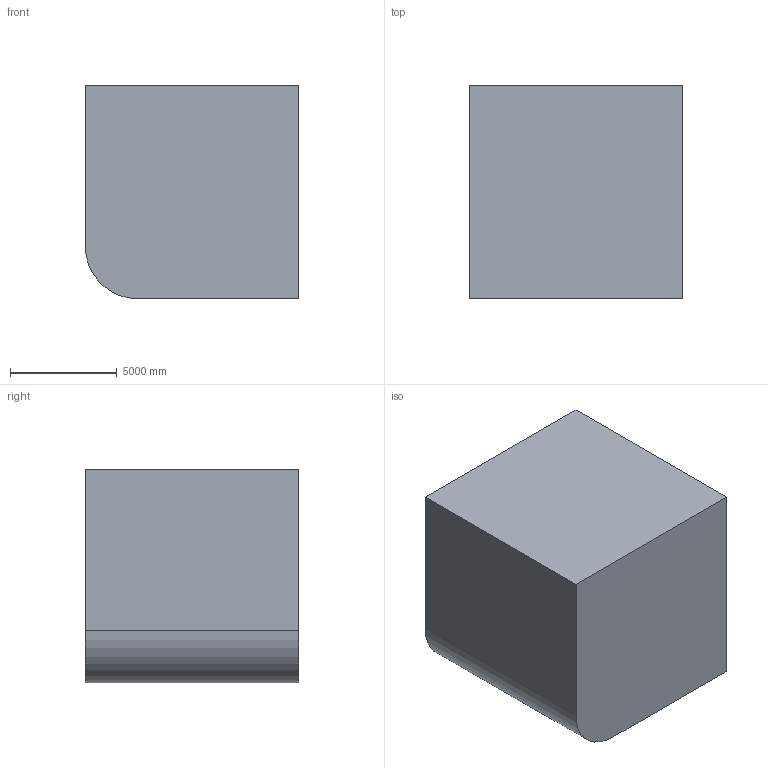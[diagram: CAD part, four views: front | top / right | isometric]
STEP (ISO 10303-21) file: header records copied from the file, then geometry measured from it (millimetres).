
FILE_DESCRIPTION (( 'STEP AP203' ), '1' );
FILE_NAME ('53.STEP', '2022-08-31T14:17:09', ( 'user' ), ( '' ), 'SwSTEP 2.0', 'SolidWorks 2021', '' );
FILE_SCHEMA (( 'CONFIG_CONTROL_DESIGN' ));
Length unit declared in the file: centimetre
Products named in the file (1): 53
Bounding box: 10000 x 10000 x 10000 mm (x, y, z)
Volume: 958653819061.6 mm3; surface area: 628152392.2 mm2
Topology: 1 solids, 1 shells, 16 faces, 42 edges, 28 vertices
Faces by surface type: plane 14, cylinder 2
Entity records: 568 total; most frequent: CARTESIAN_POINT 87, ORIENTED_EDGE 84, DIRECTION 81, EDGE_CURVE 42, LINE 37, VECTOR 37, VERTEX_POINT 28, AXIS2_PLACEMENT_3D 22
